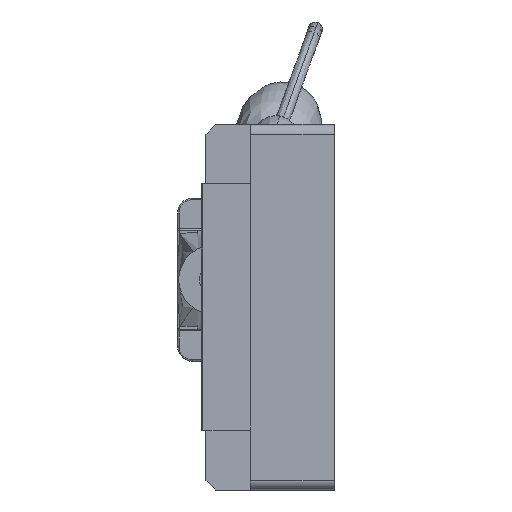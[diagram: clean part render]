
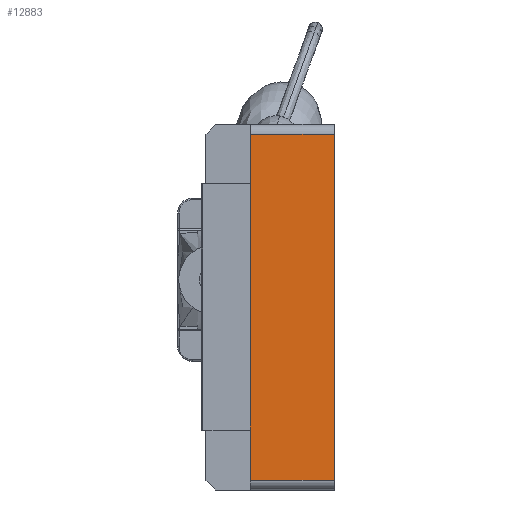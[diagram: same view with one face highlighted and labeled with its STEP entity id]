
A CAD part, left-side view. The second image highlights one B-rep face of the part: STEP entity #12883.
In plain terms, the highlighted planar face has unit normal (-1, 0, 0).
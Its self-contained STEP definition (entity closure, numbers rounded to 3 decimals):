
#303 = EDGE_CURVE ( 'NONE', #11725, #626, #7200, .T. ) ;
#626 = VERTEX_POINT ( 'NONE', #11271 ) ;
#1224 = VECTOR ( 'NONE', #13473, 1000. ) ;
#2996 = PLANE ( 'NONE',  #15703 ) ;
#3111 = EDGE_LOOP ( 'NONE', ( #13287, #10175, #15033, #6314 ) ) ;
#3132 = LINE ( 'NONE', #3910, #15796 ) ;
#3610 = CARTESIAN_POINT ( 'NONE',  ( -94.5, 17., -35. ) ) ;
#3689 = DIRECTION ( 'NONE',  ( 0., 1., 0. ) ) ;
#3910 = CARTESIAN_POINT ( 'NONE',  ( -94.5, 17., -35. ) ) ;
#4481 = LINE ( 'NONE', #13004, #1224 ) ;
#5473 = DIRECTION ( 'NONE',  ( 0., 0., -1. ) ) ;
#5635 = CARTESIAN_POINT ( 'NONE',  ( -94.5, 0., -37. ) ) ;
#5695 = VERTEX_POINT ( 'NONE', #13193 ) ;
#6314 = ORIENTED_EDGE ( 'NONE', *, *, #303, .T. ) ;
#6864 = DIRECTION ( 'NONE',  ( 0., 0., 1. ) ) ;
#6945 = VERTEX_POINT ( 'NONE', #3610 ) ;
#7200 = LINE ( 'NONE', #8226, #7590 ) ;
#7590 = VECTOR ( 'NONE', #3689, 1000. ) ;
#7964 = EDGE_CURVE ( 'NONE', #5695, #11725, #12949, .T. ) ;
#8226 = CARTESIAN_POINT ( 'NONE',  ( -94.5, 17., 35. ) ) ;
#8502 = CARTESIAN_POINT ( 'NONE',  ( -94.5, 0., 35. ) ) ;
#8650 = EDGE_CURVE ( 'NONE', #6945, #626, #4481, .T. ) ;
#10175 = ORIENTED_EDGE ( 'NONE', *, *, #15442, .T. ) ;
#11271 = CARTESIAN_POINT ( 'NONE',  ( -94.5, 17., 35. ) ) ;
#11607 = CARTESIAN_POINT ( 'NONE',  ( -94.5, 17., -37. ) ) ;
#11725 = VERTEX_POINT ( 'NONE', #8502 ) ;
#12822 = DIRECTION ( 'NONE',  ( 1., 0., 0. ) ) ;
#12883 = ADVANCED_FACE ( 'NONE', ( #14226 ), #2996, .F. ) ;
#12949 = LINE ( 'NONE', #5635, #15806 ) ;
#13004 = CARTESIAN_POINT ( 'NONE',  ( -94.5, 17., -37. ) ) ;
#13193 = CARTESIAN_POINT ( 'NONE',  ( -94.5, 0., -35. ) ) ;
#13287 = ORIENTED_EDGE ( 'NONE', *, *, #8650, .F. ) ;
#13473 = DIRECTION ( 'NONE',  ( 0., 0., 1. ) ) ;
#14226 = FACE_OUTER_BOUND ( 'NONE', #3111, .T. ) ;
#14954 = DIRECTION ( 'NONE',  ( 0., -1., 0. ) ) ;
#15033 = ORIENTED_EDGE ( 'NONE', *, *, #7964, .T. ) ;
#15442 = EDGE_CURVE ( 'NONE', #6945, #5695, #3132, .T. ) ;
#15703 = AXIS2_PLACEMENT_3D ( 'NONE', #11607, #12822, #5473 ) ;
#15796 = VECTOR ( 'NONE', #14954, 1000. ) ;
#15806 = VECTOR ( 'NONE', #6864, 1000. ) ;
